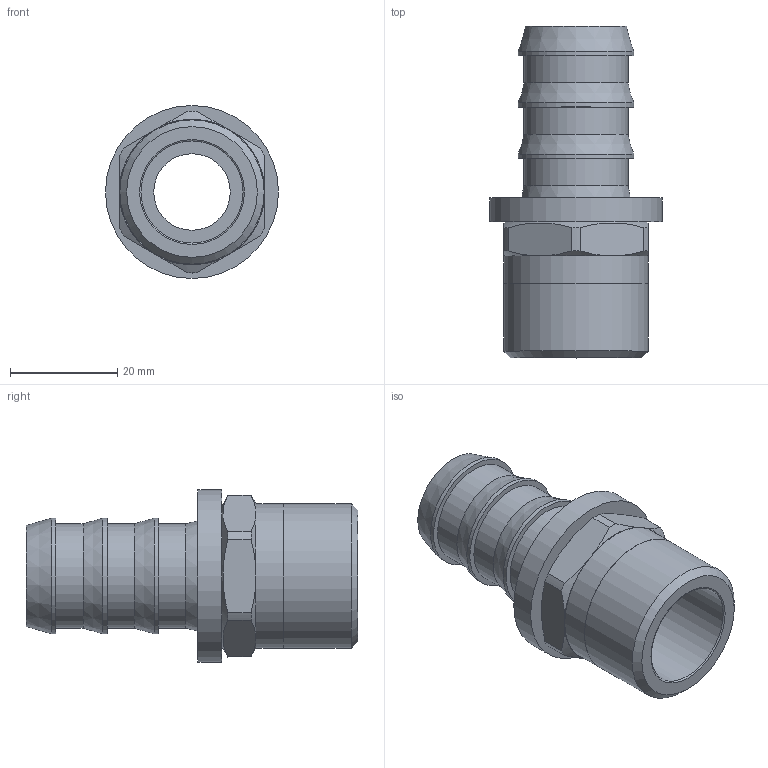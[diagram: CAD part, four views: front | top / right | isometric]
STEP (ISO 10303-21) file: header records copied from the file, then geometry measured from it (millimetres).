
FILE_DESCRIPTION(/* description */ (''),/* implementation_level */ '2;1');
FILE_NAME(/* name */ 'C:/Users/drich/Desktop/PLM-12-12 v1.step',/* time_stamp */ '2020-02-02T14:48:47-06:00',/* author */ (''),/* organization */ (''),/* preprocessor_version */ 'ST-DEVELOPER v18',/* originating_system */ 'Autodesk Translation Framework v8.12.0.6',/* authorisation */ '');
FILE_SCHEMA (('AUTOMOTIVE_DESIGN { 1 0 10303 214 3 1 1 }'));
Length unit declared in the file: inch
Products named in the file (3): PLM-12-12; -12 BARB ONLY; FW-15
Assembly tree (2 placements, depth 2):
  PLM-12-12
    -12 BARB ONLY
    FW-15
Bounding box: 32.26 x 61.9 x 32.26 mm (x, y, z)
Volume: 15010.7 mm3; surface area: 10665 mm2
Topology: 3 solids, 3 shells, 61 faces, 161 edges, 113 vertices
Faces by surface type: plane 25, cylinder 22, cone 13, torus 1
Full cylindrical faces by diameter (mm): 14.275 x2, 19.05 x1, 19.431 x3, 20.32 x1, 21.59 x5, 26.924 x1, 26.975 x1, 29.718 x1, 32.258 x1
Entity records: 2063 total; most frequent: CARTESIAN_POINT 376, DIRECTION 371, ORIENTED_EDGE 322, AXIS2_PLACEMENT_3D 162, EDGE_CURVE 161, VERTEX_POINT 113, CIRCLE 96, EDGE_LOOP 74
